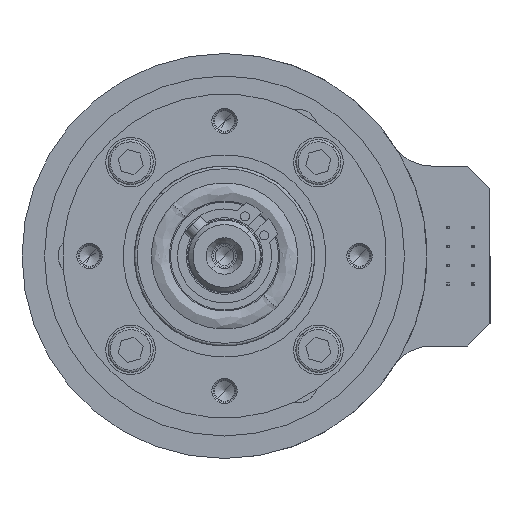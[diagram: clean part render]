
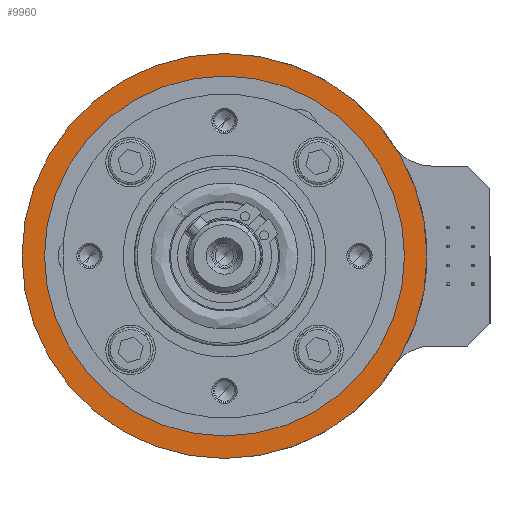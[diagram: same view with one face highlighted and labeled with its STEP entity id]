
A CAD part, left-side view. The second image highlights one B-rep face of the part: STEP entity #9960.
In plain terms, the highlighted planar face has unit normal (-1, 0, 0).
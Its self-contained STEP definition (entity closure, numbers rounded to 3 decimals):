
#642 = AXIS2_PLACEMENT_3D ( 'NONE', #31015, #20635, #8695 ) ;
#1040 = DIRECTION ( 'NONE',  ( 0., 0., -1. ) ) ;
#2483 = ORIENTED_EDGE ( 'NONE', *, *, #14851, .F. ) ;
#3345 = CARTESIAN_POINT ( 'NONE',  ( 0., -16.25, -28.146 ) ) ;
#3478 = ORIENTED_EDGE ( 'NONE', *, *, #10023, .F. ) ;
#3612 = CIRCLE ( 'NONE', #25333, 2.1 ) ;
#3789 = CARTESIAN_POINT ( 'NONE',  ( 0., 32.5, 2.1 ) ) ;
#4045 = CARTESIAN_POINT ( 'NONE',  ( 0., -16.25, -28.146 ) ) ;
#4345 = CARTESIAN_POINT ( 'NONE',  ( 0., 0., 0. ) ) ;
#4382 = FACE_OUTER_BOUND ( 'NONE', #27505, .T. ) ;
#4621 = CARTESIAN_POINT ( 'NONE',  ( 0., 0., -17.5 ) ) ;
#5895 = VERTEX_POINT ( 'NONE', #19368 ) ;
#6088 = CARTESIAN_POINT ( 'NONE',  ( 0., 32.5, -2.1 ) ) ;
#6901 = EDGE_CURVE ( 'NONE', #13585, #7041, #27725, .T. ) ;
#7007 = DIRECTION ( 'NONE',  ( 1., 0., 0. ) ) ;
#7041 = VERTEX_POINT ( 'NONE', #6088 ) ;
#7385 = CARTESIAN_POINT ( 'NONE',  ( 0., 0., 17.5 ) ) ;
#7792 = DIRECTION ( 'NONE',  ( 0., 0., -1. ) ) ;
#7795 = EDGE_CURVE ( 'NONE', #31071, #26954, #3612, .T. ) ;
#8223 = CIRCLE ( 'NONE', #28419, 2.1 ) ;
#8531 = DIRECTION ( 'NONE',  ( 0., 0., 1. ) ) ;
#8695 = DIRECTION ( 'NONE',  ( 0., 0., -1. ) ) ;
#9225 = DIRECTION ( 'NONE',  ( 0., 0., 1. ) ) ;
#9960 = ADVANCED_FACE ( 'NONE', ( #12566, #19987, #11024, #31529, #4382 ), #25675, .F. ) ;
#10023 = EDGE_CURVE ( 'NONE', #26954, #31071, #13238, .T. ) ;
#10188 = EDGE_LOOP ( 'NONE', ( #30005, #3478 ) ) ;
#10755 = DIRECTION ( 'NONE',  ( 0., 0., 1. ) ) ;
#10869 = DIRECTION ( 'NONE',  ( 1., 0., 0. ) ) ;
#10998 = ORIENTED_EDGE ( 'NONE', *, *, #12344, .F. ) ;
#11009 = DIRECTION ( 'NONE',  ( -1., 0., 0. ) ) ;
#11024 = FACE_BOUND ( 'NONE', #23598, .T. ) ;
#11215 = CIRCLE ( 'NONE', #642, 17.5 ) ;
#11680 = DIRECTION ( 'NONE',  ( 0., 0., 1. ) ) ;
#11839 = DIRECTION ( 'NONE',  ( 1., 0., 0. ) ) ;
#12104 = VERTEX_POINT ( 'NONE', #14187 ) ;
#12344 = EDGE_CURVE ( 'NONE', #5895, #23138, #29724, .T. ) ;
#12355 = EDGE_LOOP ( 'NONE', ( #25905, #15177 ) ) ;
#12566 = FACE_BOUND ( 'NONE', #12355, .T. ) ;
#12789 = EDGE_CURVE ( 'NONE', #12104, #23378, #22366, .T. ) ;
#13238 = CIRCLE ( 'NONE', #28514, 2.1 ) ;
#13275 = ORIENTED_EDGE ( 'NONE', *, *, #27174, .F. ) ;
#13585 = VERTEX_POINT ( 'NONE', #3789 ) ;
#13762 = DIRECTION ( 'NONE',  ( -1., 0., 0. ) ) ;
#13835 = CARTESIAN_POINT ( 'NONE',  ( 0., -16.25, 28.146 ) ) ;
#14005 = CARTESIAN_POINT ( 'NONE',  ( 0., -16.25, 28.146 ) ) ;
#14187 = CARTESIAN_POINT ( 'NONE',  ( 0., 0., -45. ) ) ;
#14655 = CARTESIAN_POINT ( 'NONE',  ( 0., 0., 45. ) ) ;
#14851 = EDGE_CURVE ( 'NONE', #16095, #18745, #23041, .T. ) ;
#15036 = AXIS2_PLACEMENT_3D ( 'NONE', #23230, #15460, #10755 ) ;
#15177 = ORIENTED_EDGE ( 'NONE', *, *, #15567, .F. ) ;
#15296 = CARTESIAN_POINT ( 'NONE',  ( 0., -16.25, -30.246 ) ) ;
#15460 = DIRECTION ( 'NONE',  ( -1., 0., 0. ) ) ;
#15567 = EDGE_CURVE ( 'NONE', #7041, #13585, #21478, .T. ) ;
#15925 = AXIS2_PLACEMENT_3D ( 'NONE', #25779, #10869, #1040 ) ;
#16062 = CARTESIAN_POINT ( 'NONE',  ( 0., 0., 0. ) ) ;
#16095 = VERTEX_POINT ( 'NONE', #4621 ) ;
#16369 = AXIS2_PLACEMENT_3D ( 'NONE', #4345, #11839, #17073 ) ;
#16426 = CARTESIAN_POINT ( 'NONE',  ( 0., -16.25, 30.246 ) ) ;
#16897 = CIRCLE ( 'NONE', #16369, 45. ) ;
#17073 = DIRECTION ( 'NONE',  ( 0., 0., -1. ) ) ;
#17547 = ORIENTED_EDGE ( 'NONE', *, *, #12789, .F. ) ;
#18745 = VERTEX_POINT ( 'NONE', #7385 ) ;
#19165 = DIRECTION ( 'NONE',  ( 0., 0., -1. ) ) ;
#19368 = CARTESIAN_POINT ( 'NONE',  ( 0., -16.25, 26.046 ) ) ;
#19378 = CARTESIAN_POINT ( 'NONE',  ( 0., 0., 0. ) ) ;
#19850 = ORIENTED_EDGE ( 'NONE', *, *, #30137, .F. ) ;
#19912 = AXIS2_PLACEMENT_3D ( 'NONE', #28885, #21145, #9225 ) ;
#19987 = FACE_BOUND ( 'NONE', #10188, .T. ) ;
#20635 = DIRECTION ( 'NONE',  ( -1., 0., 0. ) ) ;
#21131 = AXIS2_PLACEMENT_3D ( 'NONE', #16062, #29974, #7792 ) ;
#21145 = DIRECTION ( 'NONE',  ( -1., 0., 0. ) ) ;
#21297 = DIRECTION ( 'NONE',  ( -1., 0., 0. ) ) ;
#21478 = CIRCLE ( 'NONE', #19912, 2.1 ) ;
#22366 = CIRCLE ( 'NONE', #28168, 45. ) ;
#23041 = CIRCLE ( 'NONE', #21131, 17.5 ) ;
#23138 = VERTEX_POINT ( 'NONE', #16426 ) ;
#23230 = CARTESIAN_POINT ( 'NONE',  ( 0., 32.5, 0. ) ) ;
#23378 = VERTEX_POINT ( 'NONE', #14655 ) ;
#23554 = CARTESIAN_POINT ( 'NONE',  ( 0., -16.25, -26.046 ) ) ;
#23598 = EDGE_LOOP ( 'NONE', ( #13275, #10998 ) ) ;
#23621 = AXIS2_PLACEMENT_3D ( 'NONE', #13835, #31547, #23968 ) ;
#23968 = DIRECTION ( 'NONE',  ( 0., 0., 1. ) ) ;
#24337 = EDGE_CURVE ( 'NONE', #18745, #16095, #11215, .T. ) ;
#24468 = ORIENTED_EDGE ( 'NONE', *, *, #24337, .F. ) ;
#25333 = AXIS2_PLACEMENT_3D ( 'NONE', #3345, #11009, #8531 ) ;
#25675 = PLANE ( 'NONE',  #15925 ) ;
#25779 = CARTESIAN_POINT ( 'NONE',  ( 0., 0., 0. ) ) ;
#25905 = ORIENTED_EDGE ( 'NONE', *, *, #6901, .F. ) ;
#26954 = VERTEX_POINT ( 'NONE', #15296 ) ;
#27174 = EDGE_CURVE ( 'NONE', #23138, #5895, #8223, .T. ) ;
#27505 = EDGE_LOOP ( 'NONE', ( #17547, #19850 ) ) ;
#27725 = CIRCLE ( 'NONE', #15036, 2.1 ) ;
#28168 = AXIS2_PLACEMENT_3D ( 'NONE', #19378, #7007, #19165 ) ;
#28193 = EDGE_LOOP ( 'NONE', ( #2483, #24468 ) ) ;
#28419 = AXIS2_PLACEMENT_3D ( 'NONE', #14005, #13762, #11680 ) ;
#28514 = AXIS2_PLACEMENT_3D ( 'NONE', #4045, #21297, #28811 ) ;
#28811 = DIRECTION ( 'NONE',  ( 0., 0., 1. ) ) ;
#28885 = CARTESIAN_POINT ( 'NONE',  ( 0., 32.5, 0. ) ) ;
#29724 = CIRCLE ( 'NONE', #23621, 2.1 ) ;
#29974 = DIRECTION ( 'NONE',  ( -1., 0., 0. ) ) ;
#30005 = ORIENTED_EDGE ( 'NONE', *, *, #7795, .F. ) ;
#30137 = EDGE_CURVE ( 'NONE', #23378, #12104, #16897, .T. ) ;
#31015 = CARTESIAN_POINT ( 'NONE',  ( 0., 0., 0. ) ) ;
#31071 = VERTEX_POINT ( 'NONE', #23554 ) ;
#31529 = FACE_BOUND ( 'NONE', #28193, .T. ) ;
#31547 = DIRECTION ( 'NONE',  ( -1., 0., 0. ) ) ;
